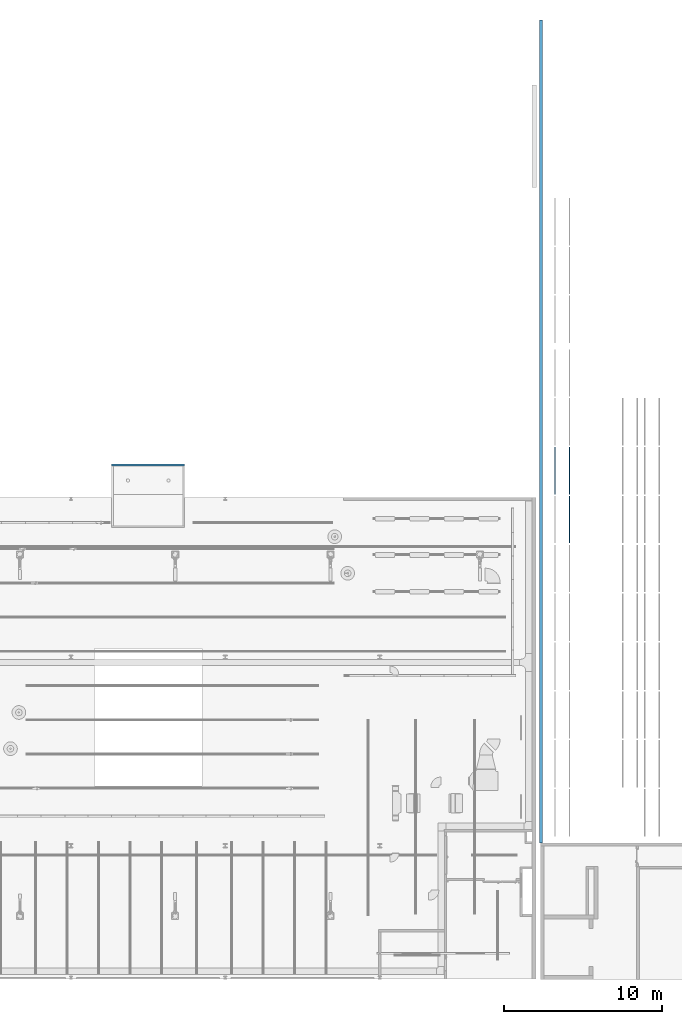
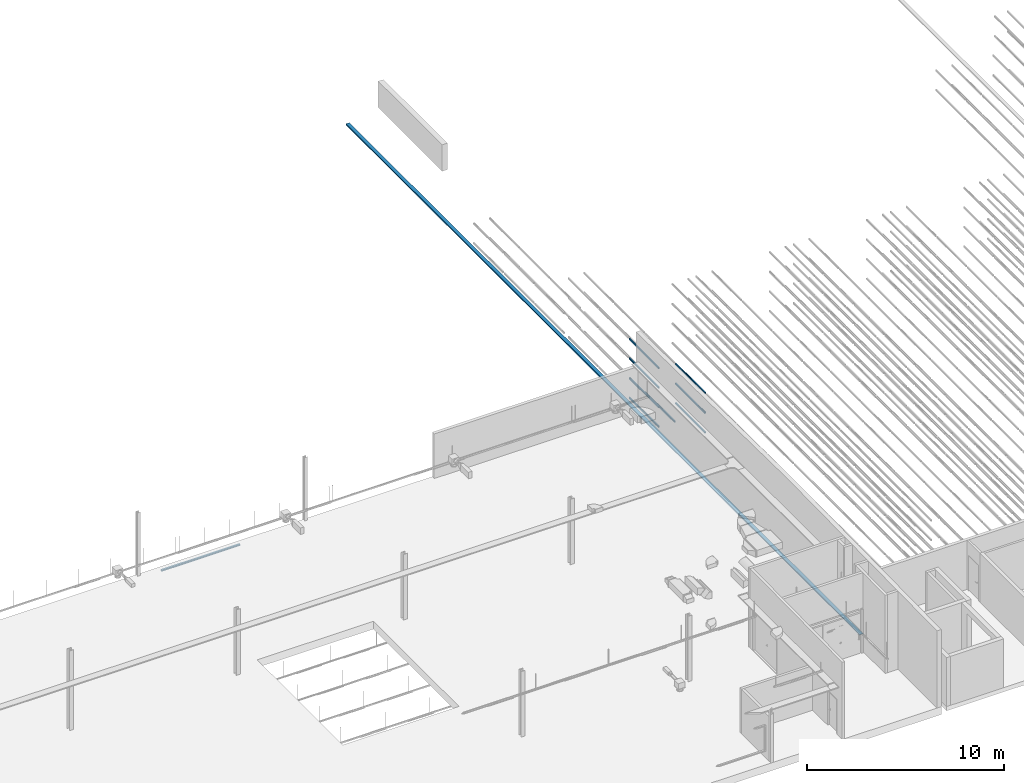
# One storey, part 14 of 290: 10 beams.
"""IFC2X3 building model written with IfcOpenShell, lengths in metres."""

from ifc_helpers import new_model, entity, si_unit, converted_unit, derived_unit, direction, frame, frame_2d, origin, place, context, subcontext, project, spatial, polyline, circle_curve, parameter, trimmed, segment, composite_curve, i_section, outline, extrude, material, type_object, element, save


model = new_model("IFC2X3")

# Units and contexts
model_context = context("Model", 3, precision=1e-05, world=origin(), true_north=direction((6.12303176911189e-17, 1.0)))
body_context = subcontext(model_context, "Body", "Model", "MODEL_VIEW")
ifc_project = project(units=[si_unit("LENGTHUNIT", "METRE"), si_unit("AREAUNIT", "SQUARE_METRE"), si_unit("VOLUMEUNIT", "CUBIC_METRE"), converted_unit("PLANEANGLEUNIT", "DEGREE", entity("IfcRatioMeasure", 0.0174532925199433), si_unit("PLANEANGLEUNIT", "RADIAN"), dimensions=[0, 0, 0, 0, 0, 0, 0]), si_unit("MASSUNIT", "GRAM", prefix="KILO"), derived_unit("MASSDENSITYUNIT", [(si_unit("MASSUNIT", "GRAM", prefix="KILO"), 1), (si_unit("LENGTHUNIT", "METRE"), -3)]), derived_unit("MOMENTOFINERTIAUNIT", [(si_unit("LENGTHUNIT", "METRE"), 4)]), si_unit("TIMEUNIT", "SECOND"), si_unit("FREQUENCYUNIT", "HERTZ"), si_unit("THERMODYNAMICTEMPERATUREUNIT", "DEGREE_CELSIUS"), derived_unit("THERMALTRANSMITTANCEUNIT", [(si_unit("MASSUNIT", "GRAM", prefix="KILO"), 1), (si_unit("THERMODYNAMICTEMPERATUREUNIT", "KELVIN"), -1), (si_unit("TIMEUNIT", "SECOND"), -3)]), derived_unit("VOLUMETRICFLOWRATEUNIT", [(si_unit("LENGTHUNIT", "METRE"), 3), (si_unit("TIMEUNIT", "SECOND"), -1)]), si_unit("ELECTRICCURRENTUNIT", "AMPERE"), si_unit("ELECTRICVOLTAGEUNIT", "VOLT"), si_unit("POWERUNIT", "WATT"), si_unit("FORCEUNIT", "NEWTON", prefix="KILO"), si_unit("ILLUMINANCEUNIT", "LUX"), si_unit("LUMINOUSFLUXUNIT", "LUMEN"), si_unit("LUMINOUSINTENSITYUNIT", "CANDELA"), derived_unit("USERDEFINED", [(si_unit("MASSUNIT", "GRAM", prefix="KILO"), -1), (si_unit("LENGTHUNIT", "METRE"), -2), (si_unit("TIMEUNIT", "SECOND"), 3), (si_unit("LUMINOUSFLUXUNIT", "LUMEN"), 1)]), derived_unit("LINEARVELOCITYUNIT", [(si_unit("LENGTHUNIT", "METRE"), 1), (si_unit("TIMEUNIT", "SECOND"), -1)]), si_unit("PRESSUREUNIT", "PASCAL"), derived_unit("USERDEFINED", [(si_unit("LENGTHUNIT", "METRE"), -2), (si_unit("MASSUNIT", "GRAM", prefix="KILO"), 1), (si_unit("TIMEUNIT", "SECOND"), -2)]), derived_unit("LINEARFORCEUNIT", [(si_unit("MASSUNIT", "GRAM", prefix="KILO"), 1), (si_unit("LENGTHUNIT", "METRE"), 1), (si_unit("TIMEUNIT", "SECOND"), -2), (si_unit("LENGTHUNIT", "METRE"), -1)]), derived_unit("PLANARFORCEUNIT", [(si_unit("MASSUNIT", "GRAM", prefix="KILO"), 1), (si_unit("LENGTHUNIT", "METRE"), 1), (si_unit("TIMEUNIT", "SECOND"), -2), (si_unit("LENGTHUNIT", "METRE"), -2)])], contexts=[model_context])

# Site, building, storey
site_placement = place(None, origin())
site = spatial("IfcSite", under=ifc_project, at=site_placement, Name="Default", CompositionType="ELEMENT")
building_placement = place(site_placement, origin())
building = spatial("IfcBuilding", under=site, at=building_placement, CompositionType="ELEMENT")
storey_placement = place(building_placement, frame((0.0, 0.0, 4.0)))
storey = spatial("IfcBuildingStorey", under=building, at=storey_placement, Name="01_OG", CompositionType="ELEMENT", Elevation=4.0)

# Beams
ifc_material_1 = material(Name="Metall - Baustahl S235")
beam_type_1 = type_object("IfcBeamType", Name="HEA Träger:HEA 100", PredefinedType="NOTDEFINED")
beam_1_placement = place(storey_placement, frame((-234.569861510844, 47.608088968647, -1.38400000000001)))
element("IfcBeam", 1, at=beam_1_placement, inside=storey, type_object=beam_type_1, material=ifc_material_1, Name="HEA Träger:HEA 100", ObjectType="HEA Träger:HEA 100", context=body_context, shape_type="SweptSolid", body=[
    extrude(i_section(OverallWidth=0.100000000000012, OverallDepth=0.0959999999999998, WebThickness=0.00499999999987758, FlangeThickness=0.00800000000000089, FilletRadius=0.011999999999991, at=frame_2d((5.41233724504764e-16, 8.66320903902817e-15), x_axis=(0.0, 1.0))), frame((4.81070539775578e-05, 0.0, -0.0480000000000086), z_axis=(1.0, 0.0, 0.0), x_axis=(0.0, 0.0, -1.0)), (0.0, 0.0, 1.0), 4.6319037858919),
])
ifc_material_2 = material(Name="Metall - Baustahl S235 blau")
beam_type_2 = type_object("IfcBeamType", Name="RHS Träger (EN 10219-2):RHS 100 x 75 x 5", PredefinedType="NOTDEFINED")
beam_2_placement = place(storey_placement, frame((-205.565111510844, 42.648088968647, 0.0150000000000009), z_axis=(0.0, 0.0, 1.0), x_axis=(0.0, 1.0, 0.0)))
element("IfcBeam", 2, at=beam_2_placement, inside=storey, type_object=beam_type_2, material=ifc_material_2, Name="RHS Träger (EN 10219-2):RHS 100 x 75 x 5", ObjectType="RHS Träger (EN 10219-2):RHS 100 x 75 x 5", context=body_context, shape_type="SweptSolid", body=[
    extrude(outline(composite_curve([segment(polyline([(-0.0400000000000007, -0.0374999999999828), (0.0399999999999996, -0.0374999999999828)]), True, "CONTINUOUS"), segment(trimmed(circle_curve(frame_2d((0.0399999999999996, -0.0274999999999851), x_axis=(0.0, 1.0)), 0.01), [parameter(180.0)], [parameter(270.0)], True, "PARAMETER"), True, "CONTINUOUS"), segment(polyline([(0.0499999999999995, -0.0274999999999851), (0.0499999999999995, 0.0274999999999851)]), True, "CONTINUOUS"), segment(trimmed(circle_curve(frame_2d((0.0399999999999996, 0.0274999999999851), x_axis=(0.0, 1.0)), 0.01), [parameter(270.0)], [parameter(4.07110999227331e-13)], True, "PARAMETER"), True, "CONTINUOUS"), segment(polyline([(0.0399999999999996, 0.0375000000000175), (-0.0400000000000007, 0.0375000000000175)]), True, "CONTINUOUS"), segment(trimmed(circle_curve(frame_2d((-0.0400000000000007, 0.0274999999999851), x_axis=(0.0, 1.0)), 0.01), [parameter(360.0)], [parameter(90.0000000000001)], True, "PARAMETER"), True, "CONTINUOUS"), segment(polyline([(-0.0500000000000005, 0.0274999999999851), (-0.0500000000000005, -0.0274999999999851)]), True, "CONTINUOUS"), segment(trimmed(circle_curve(frame_2d((-0.0400000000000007, -0.0274999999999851), x_axis=(0.0, 1.0)), 0.01), [parameter(90.0000000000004)], [parameter(180.0)], True, "PARAMETER"), True, "CONTINUOUS")], self_intersect=False), holes=[composite_curve([segment(trimmed(circle_curve(frame_2d((-0.0400000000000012, 0.0274999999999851), x_axis=(0.0, 1.0)), 0.005), [parameter(360.0)], [parameter(89.9999999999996)], True, "PARAMETER"), False, "CONTINUOUS"), segment(polyline([(-0.0400000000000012, 0.0325000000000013), (0.0399999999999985, 0.0325000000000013)]), True, "CONTINUOUS"), segment(trimmed(circle_curve(frame_2d((0.0399999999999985, 0.0274999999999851), x_axis=(0.0, 1.0)), 0.005), [parameter(270.0)], [parameter(0.0)], True, "PARAMETER"), False, "CONTINUOUS"), segment(polyline([(0.0449999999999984, 0.0274999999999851), (0.0449999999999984, -0.0274999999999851)]), True, "CONTINUOUS"), segment(trimmed(circle_curve(frame_2d((0.0399999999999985, -0.0274999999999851), x_axis=(0.0, 1.0)), 0.005), [parameter(180.0)], [parameter(269.999999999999)], True, "PARAMETER"), False, "CONTINUOUS"), segment(polyline([(0.0399999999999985, -0.0325000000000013), (-0.0400000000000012, -0.0325000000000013)]), True, "CONTINUOUS"), segment(trimmed(circle_curve(frame_2d((-0.0400000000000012, -0.0274999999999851), x_axis=(0.0, 1.0)), 0.005), [parameter(90.0000000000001)], [parameter(180.0)], True, "PARAMETER"), False, "CONTINUOUS"), segment(polyline([(-0.0450000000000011, -0.0274999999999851), (-0.0450000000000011, 0.0274999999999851)]), True, "CONTINUOUS")], self_intersect=False)]), frame((0.000100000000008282, -0.0375000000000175, -0.0500000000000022), z_axis=(1.0, 0.0, 0.0), x_axis=(0.0, 0.0, -1.0)), (0.0, 0.0, 1.0), 2.99979999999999),
])
beam_3_placement = place(storey_placement, frame((-205.565111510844, 42.648088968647, 1.23), z_axis=(0.0, 0.0, 1.0), x_axis=(0.0, 1.0, 0.0)))
element("IfcBeam", 3, at=beam_3_placement, inside=storey, type_object=beam_type_2, material=ifc_material_2, Name="RHS Träger (EN 10219-2):RHS 100 x 75 x 5", ObjectType="RHS Träger (EN 10219-2):RHS 100 x 75 x 5", context=body_context, shape_type="SweptSolid", body=[
    extrude(outline(composite_curve([segment(polyline([(-0.0399999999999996, -0.0374999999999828), (0.0399999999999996, -0.0374999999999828)]), True, "CONTINUOUS"), segment(trimmed(circle_curve(frame_2d((0.0399999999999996, -0.0274999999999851), x_axis=(0.0, 1.0)), 0.01), [parameter(180.0)], [parameter(270.0)], True, "PARAMETER"), True, "CONTINUOUS"), segment(polyline([(0.0500000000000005, -0.0274999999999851), (0.0500000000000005, 0.0274999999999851)]), True, "CONTINUOUS"), segment(trimmed(circle_curve(frame_2d((0.0399999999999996, 0.0274999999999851), x_axis=(0.0, 1.0)), 0.01), [parameter(270.0)], [parameter(4.07110999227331e-13)], True, "PARAMETER"), True, "CONTINUOUS"), segment(polyline([(0.0399999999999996, 0.0375000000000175), (-0.0399999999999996, 0.0375000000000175)]), True, "CONTINUOUS"), segment(trimmed(circle_curve(frame_2d((-0.0399999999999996, 0.0274999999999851), x_axis=(0.0, 1.0)), 0.01), [parameter(360.0)], [parameter(90.0000000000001)], True, "PARAMETER"), True, "CONTINUOUS"), segment(polyline([(-0.0499999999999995, 0.0274999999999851), (-0.0499999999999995, -0.0274999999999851)]), True, "CONTINUOUS"), segment(trimmed(circle_curve(frame_2d((-0.0399999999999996, -0.0274999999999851), x_axis=(0.0, 1.0)), 0.01), [parameter(90.0000000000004)], [parameter(180.0)], True, "PARAMETER"), True, "CONTINUOUS")], self_intersect=False), holes=[composite_curve([segment(trimmed(circle_curve(frame_2d((-0.0400000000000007, 0.0274999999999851), x_axis=(0.0, 1.0)), 0.005), [parameter(360.0)], [parameter(89.9999999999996)], True, "PARAMETER"), False, "CONTINUOUS"), segment(polyline([(-0.0400000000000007, 0.0325000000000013), (0.0399999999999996, 0.0325000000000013)]), True, "CONTINUOUS"), segment(trimmed(circle_curve(frame_2d((0.0399999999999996, 0.0274999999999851), x_axis=(0.0, 1.0)), 0.005), [parameter(270.0)], [parameter(0.0)], True, "PARAMETER"), False, "CONTINUOUS"), segment(polyline([(0.0449999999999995, 0.0274999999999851), (0.0449999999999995, -0.0274999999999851)]), True, "CONTINUOUS"), segment(trimmed(circle_curve(frame_2d((0.0399999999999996, -0.0274999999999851), x_axis=(0.0, 1.0)), 0.005), [parameter(180.0)], [parameter(269.999999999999)], True, "PARAMETER"), False, "CONTINUOUS"), segment(polyline([(0.0399999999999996, -0.0325000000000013), (-0.0400000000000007, -0.0325000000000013)]), True, "CONTINUOUS"), segment(trimmed(circle_curve(frame_2d((-0.0400000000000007, -0.0274999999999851), x_axis=(0.0, 1.0)), 0.005), [parameter(90.0000000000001)], [parameter(180.0)], True, "PARAMETER"), False, "CONTINUOUS"), segment(polyline([(-0.0450000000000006, -0.0274999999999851), (-0.0450000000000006, 0.0274999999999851)]), True, "CONTINUOUS")], self_intersect=False)]), frame((0.000100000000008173, -0.0375000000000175, -0.0500000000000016), z_axis=(1.0, 0.0, 0.0), x_axis=(0.0, 0.0, -1.0)), (0.0, 0.0, 1.0), 2.99979999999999),
])
beam_4_placement = place(storey_placement, frame((-205.565111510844, 42.648088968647, 2.445), z_axis=(0.0, 0.0, 1.0), x_axis=(0.0, 1.0, 0.0)))
element("IfcBeam", 4, at=beam_4_placement, inside=storey, type_object=beam_type_2, material=ifc_material_2, Name="RHS Träger (EN 10219-2):RHS 100 x 75 x 5", ObjectType="RHS Träger (EN 10219-2):RHS 100 x 75 x 5", context=body_context, shape_type="SweptSolid", body=[
    extrude(outline(composite_curve([segment(polyline([(-0.0399999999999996, -0.0374999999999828), (0.0399999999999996, -0.0374999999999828)]), True, "CONTINUOUS"), segment(trimmed(circle_curve(frame_2d((0.0399999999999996, -0.0274999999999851), x_axis=(0.0, 1.0)), 0.01), [parameter(180.0)], [parameter(270.0)], True, "PARAMETER"), True, "CONTINUOUS"), segment(polyline([(0.0500000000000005, -0.0274999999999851), (0.0500000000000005, 0.0274999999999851)]), True, "CONTINUOUS"), segment(trimmed(circle_curve(frame_2d((0.0399999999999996, 0.0274999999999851), x_axis=(0.0, 1.0)), 0.01), [parameter(270.0)], [parameter(4.07110999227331e-13)], True, "PARAMETER"), True, "CONTINUOUS"), segment(polyline([(0.0399999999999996, 0.0375000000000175), (-0.0399999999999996, 0.0375000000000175)]), True, "CONTINUOUS"), segment(trimmed(circle_curve(frame_2d((-0.0399999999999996, 0.0274999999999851), x_axis=(0.0, 1.0)), 0.01), [parameter(360.0)], [parameter(90.0000000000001)], True, "PARAMETER"), True, "CONTINUOUS"), segment(polyline([(-0.0499999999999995, 0.0274999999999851), (-0.0499999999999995, -0.0274999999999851)]), True, "CONTINUOUS"), segment(trimmed(circle_curve(frame_2d((-0.0399999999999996, -0.0274999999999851), x_axis=(0.0, 1.0)), 0.01), [parameter(90.0000000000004)], [parameter(180.0)], True, "PARAMETER"), True, "CONTINUOUS")], self_intersect=False), holes=[composite_curve([segment(trimmed(circle_curve(frame_2d((-0.0400000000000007, 0.0274999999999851), x_axis=(0.0, 1.0)), 0.005), [parameter(360.0)], [parameter(89.9999999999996)], True, "PARAMETER"), False, "CONTINUOUS"), segment(polyline([(-0.0400000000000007, 0.0325000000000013), (0.0399999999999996, 0.0325000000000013)]), True, "CONTINUOUS"), segment(trimmed(circle_curve(frame_2d((0.0399999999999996, 0.0274999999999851), x_axis=(0.0, 1.0)), 0.005), [parameter(270.0)], [parameter(0.0)], True, "PARAMETER"), False, "CONTINUOUS"), segment(polyline([(0.0449999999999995, 0.0274999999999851), (0.0449999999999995, -0.0274999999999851)]), True, "CONTINUOUS"), segment(trimmed(circle_curve(frame_2d((0.0399999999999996, -0.0274999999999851), x_axis=(0.0, 1.0)), 0.005), [parameter(180.0)], [parameter(269.999999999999)], True, "PARAMETER"), False, "CONTINUOUS"), segment(polyline([(0.0399999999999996, -0.0325000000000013), (-0.0400000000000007, -0.0325000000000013)]), True, "CONTINUOUS"), segment(trimmed(circle_curve(frame_2d((-0.0400000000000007, -0.0274999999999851), x_axis=(0.0, 1.0)), 0.005), [parameter(90.0000000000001)], [parameter(180.0)], True, "PARAMETER"), False, "CONTINUOUS"), segment(polyline([(-0.0450000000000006, -0.0274999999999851), (-0.0450000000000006, 0.0274999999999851)]), True, "CONTINUOUS")], self_intersect=False)]), frame((0.000100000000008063, -0.0375000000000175, -0.0500000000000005), z_axis=(1.0, 0.0, 0.0), x_axis=(0.0, 0.0, -1.0)), (0.0, 0.0, 1.0), 2.99979999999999),
])
beam_5_placement = place(storey_placement, frame((-206.415111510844, 45.748088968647, -1.2), z_axis=(0.0, 0.0, 1.0), x_axis=(0.0, 1.0, 0.0)))
element("IfcBeam", 5, at=beam_5_placement, inside=storey, type_object=beam_type_2, material=ifc_material_2, Name="RHS Träger (EN 10219-2):RHS 100 x 75 x 5", ObjectType="RHS Träger (EN 10219-2):RHS 100 x 75 x 5", context=body_context, shape_type="SweptSolid", body=[
    extrude(outline(composite_curve([segment(trimmed(circle_curve(frame_2d((-0.0274999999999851, -0.0400000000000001), x_axis=(1.0, 0.0)), 0.01), [parameter(180.0)], [parameter(270.0)], True, "PARAMETER"), True, "CONTINUOUS"), segment(polyline([(-0.0274999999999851, -0.05), (0.0274999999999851, -0.05)]), True, "CONTINUOUS"), segment(trimmed(circle_curve(frame_2d((0.0274999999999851, -0.0400000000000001), x_axis=(1.0, 0.0)), 0.01), [parameter(270.0)], [parameter(5.08888749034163e-14)], True, "PARAMETER"), True, "CONTINUOUS"), segment(polyline([(0.0375000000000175, -0.0400000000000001), (0.0375000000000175, 0.0400000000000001)]), True, "CONTINUOUS"), segment(trimmed(circle_curve(frame_2d((0.0274999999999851, 0.0400000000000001), x_axis=(1.0, 0.0)), 0.01), [parameter(360.0)], [parameter(89.9999999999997)], True, "PARAMETER"), True, "CONTINUOUS"), segment(polyline([(0.0274999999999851, 0.05), (-0.0274999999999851, 0.05)]), True, "CONTINUOUS"), segment(trimmed(circle_curve(frame_2d((-0.0274999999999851, 0.0400000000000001), x_axis=(1.0, 0.0)), 0.01), [parameter(90.0000000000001)], [parameter(180.0)], True, "PARAMETER"), True, "CONTINUOUS"), segment(polyline([(-0.0374999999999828, 0.0400000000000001), (-0.0374999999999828, -0.0400000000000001)]), True, "CONTINUOUS")], self_intersect=False), holes=[composite_curve([segment(polyline([(0.0274999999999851, -0.0450000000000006), (-0.0274999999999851, -0.0450000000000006)]), True, "CONTINUOUS"), segment(trimmed(circle_curve(frame_2d((-0.0274999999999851, -0.0400000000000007), x_axis=(1.0, 0.0)), 0.005), [parameter(180.0)], [parameter(270.0)], True, "PARAMETER"), False, "CONTINUOUS"), segment(polyline([(-0.0325000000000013, -0.0400000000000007), (-0.0325000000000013, 0.039999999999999)]), True, "CONTINUOUS"), segment(trimmed(circle_curve(frame_2d((-0.0274999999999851, 0.039999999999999), x_axis=(1.0, 0.0)), 0.005), [parameter(90.0000000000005)], [parameter(180.0)], True, "PARAMETER"), False, "CONTINUOUS"), segment(polyline([(-0.0274999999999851, 0.044999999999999), (0.0274999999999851, 0.044999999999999)]), True, "CONTINUOUS"), segment(trimmed(circle_curve(frame_2d((0.0274999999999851, 0.039999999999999), x_axis=(1.0, 0.0)), 0.005), [parameter(0.0)], [parameter(90.0000000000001)], True, "PARAMETER"), False, "CONTINUOUS"), segment(polyline([(0.0325000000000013, 0.039999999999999), (0.0325000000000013, -0.0400000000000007)]), True, "CONTINUOUS"), segment(trimmed(circle_curve(frame_2d((0.0274999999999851, -0.0400000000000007), x_axis=(1.0, 0.0)), 0.005), [parameter(270.0)], [parameter(4.07110999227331e-13)], True, "PARAMETER"), False, "CONTINUOUS")], self_intersect=False)]), frame((0.000100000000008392, 0.0375000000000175, -0.0500000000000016), z_axis=(1.0, 0.0, 0.0), x_axis=(0.0, -1.0, 0.0)), (0.0, 0.0, 1.0), 2.99979999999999),
])
beam_6_placement = place(storey_placement, frame((-206.415111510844, 45.748088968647, 0.0150000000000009), z_axis=(0.0, 0.0, 1.0), x_axis=(0.0, 1.0, 0.0)))
element("IfcBeam", 6, at=beam_6_placement, inside=storey, type_object=beam_type_2, material=ifc_material_2, Name="RHS Träger (EN 10219-2):RHS 100 x 75 x 5", ObjectType="RHS Träger (EN 10219-2):RHS 100 x 75 x 5", context=body_context, shape_type="SweptSolid", body=[
    extrude(outline(composite_curve([segment(trimmed(circle_curve(frame_2d((-0.0274999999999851, -0.0400000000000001), x_axis=(1.0, 0.0)), 0.01), [parameter(180.0)], [parameter(270.0)], True, "PARAMETER"), True, "CONTINUOUS"), segment(polyline([(-0.0274999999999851, -0.05), (0.0274999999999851, -0.05)]), True, "CONTINUOUS"), segment(trimmed(circle_curve(frame_2d((0.0274999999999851, -0.0400000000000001), x_axis=(1.0, 0.0)), 0.01), [parameter(270.0)], [parameter(5.08888749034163e-14)], True, "PARAMETER"), True, "CONTINUOUS"), segment(polyline([(0.0375000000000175, -0.0400000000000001), (0.0375000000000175, 0.0400000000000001)]), True, "CONTINUOUS"), segment(trimmed(circle_curve(frame_2d((0.0274999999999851, 0.0400000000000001), x_axis=(1.0, 0.0)), 0.01), [parameter(360.0)], [parameter(89.9999999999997)], True, "PARAMETER"), True, "CONTINUOUS"), segment(polyline([(0.0274999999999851, 0.05), (-0.0274999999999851, 0.05)]), True, "CONTINUOUS"), segment(trimmed(circle_curve(frame_2d((-0.0274999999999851, 0.0400000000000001), x_axis=(1.0, 0.0)), 0.01), [parameter(90.0000000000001)], [parameter(180.0)], True, "PARAMETER"), True, "CONTINUOUS"), segment(polyline([(-0.0374999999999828, 0.0400000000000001), (-0.0374999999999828, -0.0400000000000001)]), True, "CONTINUOUS")], self_intersect=False), holes=[composite_curve([segment(polyline([(0.0274999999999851, -0.0450000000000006), (-0.0274999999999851, -0.0450000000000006)]), True, "CONTINUOUS"), segment(trimmed(circle_curve(frame_2d((-0.0274999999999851, -0.0400000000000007), x_axis=(1.0, 0.0)), 0.005), [parameter(180.0)], [parameter(270.0)], True, "PARAMETER"), False, "CONTINUOUS"), segment(polyline([(-0.0325000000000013, -0.0400000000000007), (-0.0325000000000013, 0.039999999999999)]), True, "CONTINUOUS"), segment(trimmed(circle_curve(frame_2d((-0.0274999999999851, 0.039999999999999), x_axis=(1.0, 0.0)), 0.005), [parameter(90.0000000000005)], [parameter(180.0)], True, "PARAMETER"), False, "CONTINUOUS"), segment(polyline([(-0.0274999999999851, 0.044999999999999), (0.0274999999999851, 0.044999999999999)]), True, "CONTINUOUS"), segment(trimmed(circle_curve(frame_2d((0.0274999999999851, 0.039999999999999), x_axis=(1.0, 0.0)), 0.005), [parameter(0.0)], [parameter(90.0000000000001)], True, "PARAMETER"), False, "CONTINUOUS"), segment(polyline([(0.0325000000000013, 0.039999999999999), (0.0325000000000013, -0.0400000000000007)]), True, "CONTINUOUS"), segment(trimmed(circle_curve(frame_2d((0.0274999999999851, -0.0400000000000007), x_axis=(1.0, 0.0)), 0.005), [parameter(270.0)], [parameter(4.07110999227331e-13)], True, "PARAMETER"), False, "CONTINUOUS")], self_intersect=False)]), frame((0.000100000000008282, 0.0375000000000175, -0.0500000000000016), z_axis=(1.0, 0.0, 0.0), x_axis=(0.0, -1.0, 0.0)), (0.0, 0.0, 1.0), 2.99979999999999),
])
beam_7_placement = place(storey_placement, frame((-206.415111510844, 45.748088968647, 1.23), z_axis=(0.0, 0.0, 1.0), x_axis=(0.0, 1.0, 0.0)))
element("IfcBeam", 7, at=beam_7_placement, inside=storey, type_object=beam_type_2, material=ifc_material_2, Name="RHS Träger (EN 10219-2):RHS 100 x 75 x 5", ObjectType="RHS Träger (EN 10219-2):RHS 100 x 75 x 5", context=body_context, shape_type="SweptSolid", body=[
    extrude(outline(composite_curve([segment(trimmed(circle_curve(frame_2d((-0.0274999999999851, -0.0399999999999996), x_axis=(1.0, 0.0)), 0.01), [parameter(180.0)], [parameter(270.0)], True, "PARAMETER"), True, "CONTINUOUS"), segment(polyline([(-0.0274999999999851, -0.0499999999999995), (0.0274999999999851, -0.0499999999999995)]), True, "CONTINUOUS"), segment(trimmed(circle_curve(frame_2d((0.0274999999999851, -0.0399999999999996), x_axis=(1.0, 0.0)), 0.01), [parameter(270.0)], [parameter(5.08888749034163e-14)], True, "PARAMETER"), True, "CONTINUOUS"), segment(polyline([(0.0375000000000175, -0.0399999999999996), (0.0375000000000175, 0.0399999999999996)]), True, "CONTINUOUS"), segment(trimmed(circle_curve(frame_2d((0.0274999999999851, 0.0399999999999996), x_axis=(1.0, 0.0)), 0.01), [parameter(360.0)], [parameter(89.9999999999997)], True, "PARAMETER"), True, "CONTINUOUS"), segment(polyline([(0.0274999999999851, 0.0500000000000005), (-0.0274999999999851, 0.0500000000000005)]), True, "CONTINUOUS"), segment(trimmed(circle_curve(frame_2d((-0.0274999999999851, 0.0399999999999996), x_axis=(1.0, 0.0)), 0.01), [parameter(90.0000000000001)], [parameter(180.0)], True, "PARAMETER"), True, "CONTINUOUS"), segment(polyline([(-0.0374999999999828, 0.0399999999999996), (-0.0374999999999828, -0.0399999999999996)]), True, "CONTINUOUS")], self_intersect=False), holes=[composite_curve([segment(polyline([(0.0274999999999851, -0.0450000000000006), (-0.0274999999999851, -0.0450000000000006)]), True, "CONTINUOUS"), segment(trimmed(circle_curve(frame_2d((-0.0274999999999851, -0.0400000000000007), x_axis=(1.0, 0.0)), 0.005), [parameter(180.0)], [parameter(270.0)], True, "PARAMETER"), False, "CONTINUOUS"), segment(polyline([(-0.0325000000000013, -0.0400000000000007), (-0.0325000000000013, 0.0399999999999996)]), True, "CONTINUOUS"), segment(trimmed(circle_curve(frame_2d((-0.0274999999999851, 0.0399999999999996), x_axis=(1.0, 0.0)), 0.005), [parameter(90.0000000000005)], [parameter(180.0)], True, "PARAMETER"), False, "CONTINUOUS"), segment(polyline([(-0.0274999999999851, 0.0449999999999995), (0.0274999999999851, 0.0449999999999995)]), True, "CONTINUOUS"), segment(trimmed(circle_curve(frame_2d((0.0274999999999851, 0.0399999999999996), x_axis=(1.0, 0.0)), 0.005), [parameter(0.0)], [parameter(90.0000000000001)], True, "PARAMETER"), False, "CONTINUOUS"), segment(polyline([(0.0325000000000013, 0.0399999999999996), (0.0325000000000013, -0.0400000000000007)]), True, "CONTINUOUS"), segment(trimmed(circle_curve(frame_2d((0.0274999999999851, -0.0400000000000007), x_axis=(1.0, 0.0)), 0.005), [parameter(270.0)], [parameter(4.07110999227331e-13)], True, "PARAMETER"), False, "CONTINUOUS")], self_intersect=False)]), frame((0.000100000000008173, 0.0375000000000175, -0.0500000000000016), z_axis=(1.0, 0.0, 0.0), x_axis=(0.0, -1.0, 0.0)), (0.0, 0.0, 1.0), 2.99979999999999),
])
beam_8_placement = place(storey_placement, frame((-206.415111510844, 45.748088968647, 2.445), z_axis=(0.0, 0.0, 1.0), x_axis=(0.0, 1.0, 0.0)))
element("IfcBeam", 8, at=beam_8_placement, inside=storey, type_object=beam_type_2, material=ifc_material_2, Name="RHS Träger (EN 10219-2):RHS 100 x 75 x 5", ObjectType="RHS Träger (EN 10219-2):RHS 100 x 75 x 5", context=body_context, shape_type="SweptSolid", body=[
    extrude(outline(composite_curve([segment(trimmed(circle_curve(frame_2d((-0.0274999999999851, -0.0399999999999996), x_axis=(1.0, 0.0)), 0.01), [parameter(180.0)], [parameter(270.0)], True, "PARAMETER"), True, "CONTINUOUS"), segment(polyline([(-0.0274999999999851, -0.0499999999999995), (0.0274999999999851, -0.0499999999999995)]), True, "CONTINUOUS"), segment(trimmed(circle_curve(frame_2d((0.0274999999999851, -0.0399999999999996), x_axis=(1.0, 0.0)), 0.01), [parameter(270.0)], [parameter(5.08888749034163e-14)], True, "PARAMETER"), True, "CONTINUOUS"), segment(polyline([(0.0375000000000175, -0.0399999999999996), (0.0375000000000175, 0.0399999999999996)]), True, "CONTINUOUS"), segment(trimmed(circle_curve(frame_2d((0.0274999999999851, 0.0399999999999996), x_axis=(1.0, 0.0)), 0.01), [parameter(360.0)], [parameter(89.9999999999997)], True, "PARAMETER"), True, "CONTINUOUS"), segment(polyline([(0.0274999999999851, 0.0500000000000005), (-0.0274999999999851, 0.0500000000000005)]), True, "CONTINUOUS"), segment(trimmed(circle_curve(frame_2d((-0.0274999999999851, 0.0399999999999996), x_axis=(1.0, 0.0)), 0.01), [parameter(90.0000000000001)], [parameter(180.0)], True, "PARAMETER"), True, "CONTINUOUS"), segment(polyline([(-0.0374999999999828, 0.0399999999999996), (-0.0374999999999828, -0.0399999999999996)]), True, "CONTINUOUS")], self_intersect=False), holes=[composite_curve([segment(polyline([(0.0274999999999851, -0.0450000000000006), (-0.0274999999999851, -0.0450000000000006)]), True, "CONTINUOUS"), segment(trimmed(circle_curve(frame_2d((-0.0274999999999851, -0.0400000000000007), x_axis=(1.0, 0.0)), 0.005), [parameter(180.0)], [parameter(270.0)], True, "PARAMETER"), False, "CONTINUOUS"), segment(polyline([(-0.0325000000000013, -0.0400000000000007), (-0.0325000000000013, 0.0399999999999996)]), True, "CONTINUOUS"), segment(trimmed(circle_curve(frame_2d((-0.0274999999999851, 0.0399999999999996), x_axis=(1.0, 0.0)), 0.005), [parameter(90.0000000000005)], [parameter(180.0)], True, "PARAMETER"), False, "CONTINUOUS"), segment(polyline([(-0.0274999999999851, 0.0449999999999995), (0.0274999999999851, 0.0449999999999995)]), True, "CONTINUOUS"), segment(trimmed(circle_curve(frame_2d((0.0274999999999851, 0.0399999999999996), x_axis=(1.0, 0.0)), 0.005), [parameter(0.0)], [parameter(90.0000000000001)], True, "PARAMETER"), False, "CONTINUOUS"), segment(polyline([(0.0325000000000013, 0.0399999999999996), (0.0325000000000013, -0.0400000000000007)]), True, "CONTINUOUS"), segment(trimmed(circle_curve(frame_2d((0.0274999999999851, -0.0400000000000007), x_axis=(1.0, 0.0)), 0.005), [parameter(270.0)], [parameter(4.07110999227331e-13)], True, "PARAMETER"), False, "CONTINUOUS")], self_intersect=False)]), frame((0.000100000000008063, 0.0375000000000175, -0.0500000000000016), z_axis=(1.0, 0.0, 0.0), x_axis=(0.0, -1.0, 0.0)), (0.0, 0.0, 1.0), 2.99979999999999),
])
beam_9_placement = place(storey_placement, frame((-205.565111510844, 45.748088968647, -1.2), z_axis=(0.0, 0.0, 1.0), x_axis=(0.0, 1.0, 0.0)))
element("IfcBeam", 9, at=beam_9_placement, inside=storey, type_object=beam_type_2, material=ifc_material_2, Name="RHS Träger (EN 10219-2):RHS 100 x 75 x 5", ObjectType="RHS Träger (EN 10219-2):RHS 100 x 75 x 5", context=body_context, shape_type="SweptSolid", body=[
    extrude(outline(composite_curve([segment(polyline([(-0.0400000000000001, -0.0374999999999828), (0.0400000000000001, -0.0374999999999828)]), True, "CONTINUOUS"), segment(trimmed(circle_curve(frame_2d((0.0400000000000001, -0.0274999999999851), x_axis=(0.0, 1.0)), 0.01), [parameter(180.0)], [parameter(270.0)], True, "PARAMETER"), True, "CONTINUOUS"), segment(polyline([(0.05, -0.0274999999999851), (0.05, 0.0274999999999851)]), True, "CONTINUOUS"), segment(trimmed(circle_curve(frame_2d((0.0400000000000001, 0.0274999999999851), x_axis=(0.0, 1.0)), 0.01), [parameter(270.0)], [parameter(4.07110999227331e-13)], True, "PARAMETER"), True, "CONTINUOUS"), segment(polyline([(0.0400000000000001, 0.0375000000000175), (-0.0400000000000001, 0.0375000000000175)]), True, "CONTINUOUS"), segment(trimmed(circle_curve(frame_2d((-0.0400000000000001, 0.0274999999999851), x_axis=(0.0, 1.0)), 0.01), [parameter(360.0)], [parameter(90.0000000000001)], True, "PARAMETER"), True, "CONTINUOUS"), segment(polyline([(-0.05, 0.0274999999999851), (-0.05, -0.0274999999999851)]), True, "CONTINUOUS"), segment(trimmed(circle_curve(frame_2d((-0.0400000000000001, -0.0274999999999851), x_axis=(0.0, 1.0)), 0.01), [parameter(90.0000000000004)], [parameter(180.0)], True, "PARAMETER"), True, "CONTINUOUS")], self_intersect=False), holes=[composite_curve([segment(trimmed(circle_curve(frame_2d((-0.0400000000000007, 0.0274999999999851), x_axis=(0.0, 1.0)), 0.005), [parameter(360.0)], [parameter(89.9999999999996)], True, "PARAMETER"), False, "CONTINUOUS"), segment(polyline([(-0.0400000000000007, 0.0325000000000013), (0.039999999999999, 0.0325000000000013)]), True, "CONTINUOUS"), segment(trimmed(circle_curve(frame_2d((0.039999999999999, 0.0274999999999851), x_axis=(0.0, 1.0)), 0.005), [parameter(270.0)], [parameter(0.0)], True, "PARAMETER"), False, "CONTINUOUS"), segment(polyline([(0.044999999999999, 0.0274999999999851), (0.044999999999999, -0.0274999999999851)]), True, "CONTINUOUS"), segment(trimmed(circle_curve(frame_2d((0.039999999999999, -0.0274999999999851), x_axis=(0.0, 1.0)), 0.005), [parameter(180.0)], [parameter(269.999999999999)], True, "PARAMETER"), False, "CONTINUOUS"), segment(polyline([(0.039999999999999, -0.0325000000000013), (-0.0400000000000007, -0.0325000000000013)]), True, "CONTINUOUS"), segment(trimmed(circle_curve(frame_2d((-0.0400000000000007, -0.0274999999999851), x_axis=(0.0, 1.0)), 0.005), [parameter(90.0000000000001)], [parameter(180.0)], True, "PARAMETER"), False, "CONTINUOUS"), segment(polyline([(-0.0450000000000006, -0.0274999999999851), (-0.0450000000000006, 0.0274999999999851)]), True, "CONTINUOUS")], self_intersect=False)]), frame((0.000100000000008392, -0.0375000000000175, -0.0500000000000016), z_axis=(1.0, 0.0, 0.0), x_axis=(0.0, 0.0, -1.0)), (0.0, 0.0, 1.0), 2.99979999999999),
])
beam_type_3 = type_object("IfcBeamType", Name="UPN Träger:UPN 200", PredefinedType="NOTDEFINED")
beam_10_placement = place(storey_placement, frame((-207.440723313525, 41.736959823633, -0.435000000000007), z_axis=(0.0, 0.0, 1.0), x_axis=(0.0, -1.0, 0.0)))
element("IfcBeam", 10, at=beam_10_placement, inside=storey, type_object=beam_type_3, material=ifc_material_1, Name="UPN Träger:UPN 200", ObjectType="UPN Träger:UPN 200", context=body_context, shape_type="SweptSolid", body=[
    extrude(outline(composite_curve([segment(polyline([(-0.0411769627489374, -0.0999999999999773), (0.0338230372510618, -0.0999999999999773)]), True, "CONTINUOUS"), segment(polyline([(0.0338230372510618, -0.0999999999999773), (0.0338230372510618, -0.0970369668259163)]), True, "CONTINUOUS"), segment(trimmed(circle_curve(frame_2d((0.0278230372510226, -0.0970369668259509), x_axis=(1.0, 0.0)), 0.00600000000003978), [parameter(0.0)], [parameter(85.4299999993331)], True, "PARAMETER"), True, "CONTINUOUS"), segment(polyline([(0.0283010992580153, -0.0910560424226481), (-0.0220932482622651, -0.0870279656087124)]), True, "CONTINUOUS"), segment(trimmed(circle_curve(frame_2d((-0.0211769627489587, -0.0755645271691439), x_axis=(-0.0796770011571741, -0.996820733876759)), 0.011499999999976), [parameter(274.5699999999)], [parameter(0.0)], True, "PARAMETER"), False, "CONTINUOUS"), segment(polyline([(-0.0326769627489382, -0.0755645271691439), (-0.0326769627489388, 0.0755645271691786)]), True, "CONTINUOUS"), segment(trimmed(circle_curve(frame_2d((-0.0211769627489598, 0.0755645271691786), x_axis=(-1.0, 0.0)), 0.011499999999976), [parameter(274.5699999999)], [parameter(0.0)], True, "PARAMETER"), False, "CONTINUOUS"), segment(polyline([(-0.0220932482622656, 0.087027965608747), (0.0283010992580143, 0.0910560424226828)]), True, "CONTINUOUS"), segment(trimmed(circle_curve(frame_2d((0.027823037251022, 0.0970369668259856), x_axis=(0.0796770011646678, -0.99682073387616)), 0.00600000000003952), [parameter(0.0)], [parameter(85.4299999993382)], True, "PARAMETER"), True, "CONTINUOUS"), segment(polyline([(0.0338230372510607, 0.0970369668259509), (0.0338230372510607, 0.100000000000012)]), True, "CONTINUOUS"), segment(polyline([(0.0338230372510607, 0.100000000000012), (-0.0411769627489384, 0.100000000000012)]), True, "CONTINUOUS"), segment(polyline([(-0.0411769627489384, 0.100000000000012), (-0.0411769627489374, -0.0999999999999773)]), True, "CONTINUOUS")], self_intersect=False)), frame((-34.101129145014, 0.100000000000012, 0.0338230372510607), z_axis=(1.0, 0.0, 0.0), x_axis=(0.0, 0.0, -1.0)), (0.0, 0.0, 1.0), 52.21),
])

save(model, "model.ifc")
